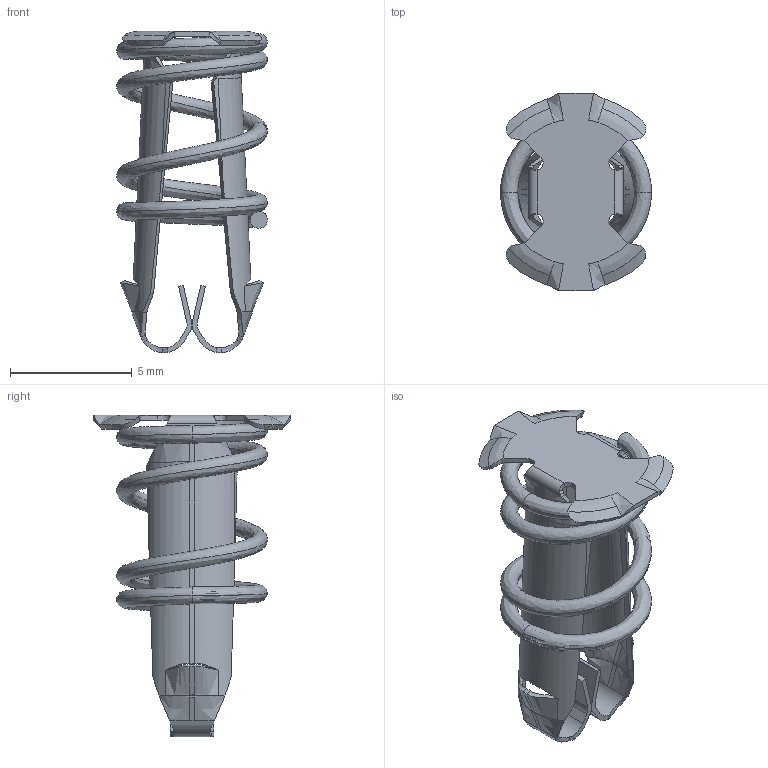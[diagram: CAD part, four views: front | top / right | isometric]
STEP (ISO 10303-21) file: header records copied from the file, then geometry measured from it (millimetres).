
FILE_DESCRIPTION(('CAx-IF Rec.Pracs.---Model Styling and Organization---1.2---2011-12-15','CAx-IF Rec.Pracs.---Geometric and Assembly Validation Properties---4.1---2014-06-16','CAx-IF Rec.Pracs.---PMI Polyline Presentation---2.0---2013-05-24'),'2;1');
FILE_NAME('021YA01Y0B.stp','2018-01-23T13:34:04+01:00',(''),(''),'STEP Interface 4.1 Sp1 by CT CoreTechnologie','3D_Evolution4.1 Sp1 by CT CoreTechnologie','');
FILE_SCHEMA(('AUTOMOTIVE_DESIGN { 1 0 10303 214 1 1 1 1 }'));
Length unit declared in the file: millimetre
Products named in the file (3): 021-A01-0B; 021-A02-01; 021-A00-0H
Assembly tree (2 placements, depth 2):
  021-A01-0B
    021-A02-01
    021-A00-0H
Bounding box: 6.2 x 8.1 x 13.21 mm (x, y, z)
Volume: 54.3 mm3; surface area: 450.2 mm2
Topology: 2 solids, 2 shells, 213 faces, 602 edges, 389 vertices
Faces by surface type: bspline 114, plane 68, cylinder 31
Entity records: 11819 total; most frequent: CARTESIAN_POINT 4763, ORIENTED_EDGE 1200, DIRECTION 982, EDGE_CURVE 600, VECTOR 404, LINE 404, VERTEX_POINT 388, AXIS2_PLACEMENT_3D 289
